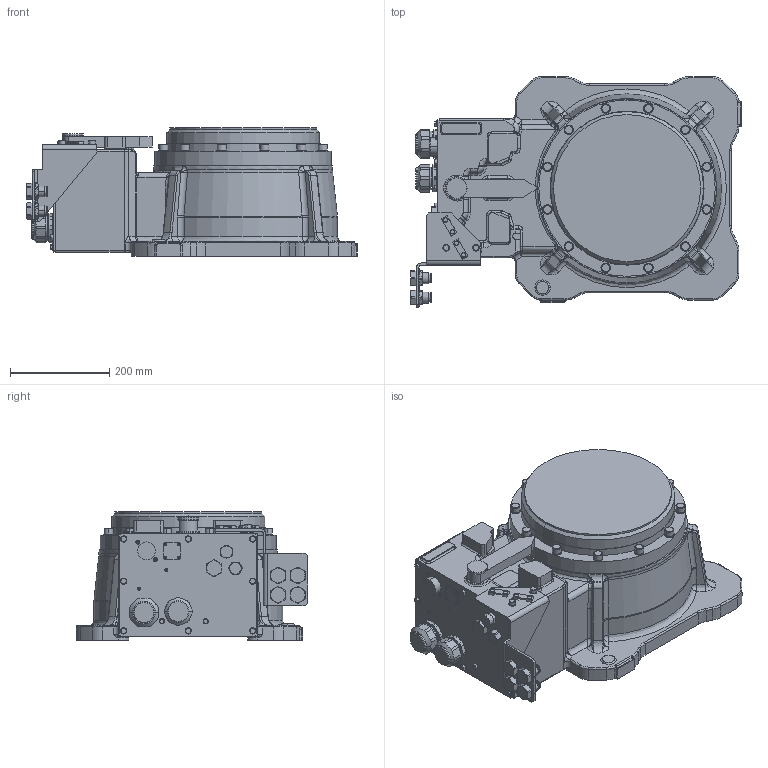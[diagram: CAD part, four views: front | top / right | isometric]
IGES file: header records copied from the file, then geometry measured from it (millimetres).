
Start section:  PTC IGES file: base_gp110.igs
Global section: file name: base_gp110.igs; native system: Creo Parametric by Parametric Technology Corporation; preprocessor: 2015030; author: robo228; organization: Unknown; date: 20171226.145528; units: millimetre
Bounding box: 665.5 x 465 x 259 mm (x, y, z)
Volume: 38865735.4 mm3; surface area: 1054668.9 mm2
Topology: 3 solids, 9 shells, 1574 faces, 3974 edges, 2529 vertices
Faces by surface type: revolution 995, bspline 579
